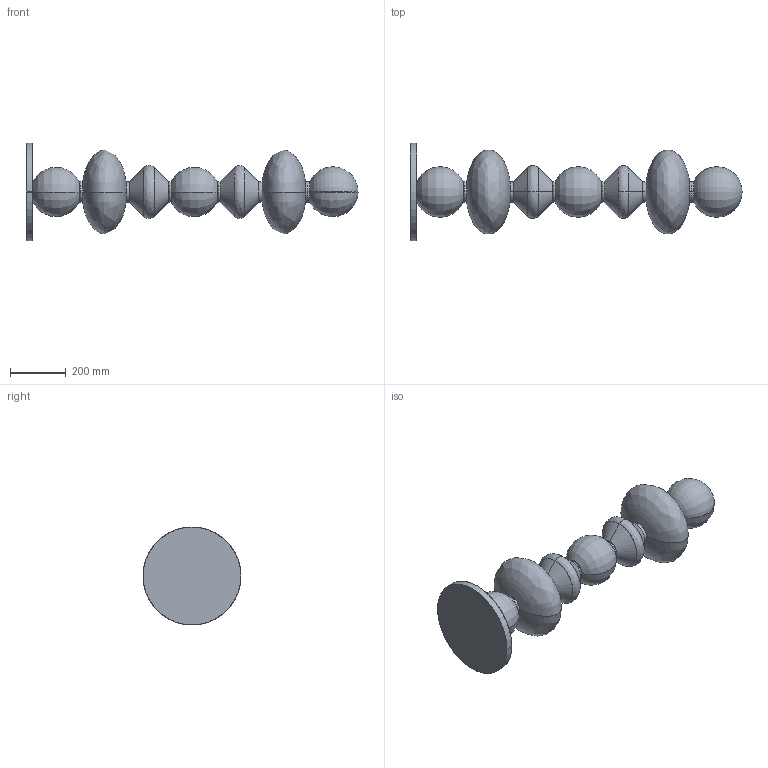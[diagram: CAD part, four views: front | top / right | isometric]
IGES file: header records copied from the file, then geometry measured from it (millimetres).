
Start section: SolidWorks IGES file using analytic representation for surfaces
Global section: file name: D:\3d novedades 2024\3D SS24\P1235_MAPI.IGS; native system: SolidWorks 2018; preprocessor: SolidWorks 2018; author: Agus; date: 240205.120559; units: millimetre
Bounding box: 1186.1 x 350 x 350 mm (x, y, z)
Surface area: 1119126.3 mm2 (no closed solid volume)
Topology: 0 solids, 0 shells, 60 faces, 1252 edges, 1251 vertices
Faces by surface type: revolution 36, bspline 24
